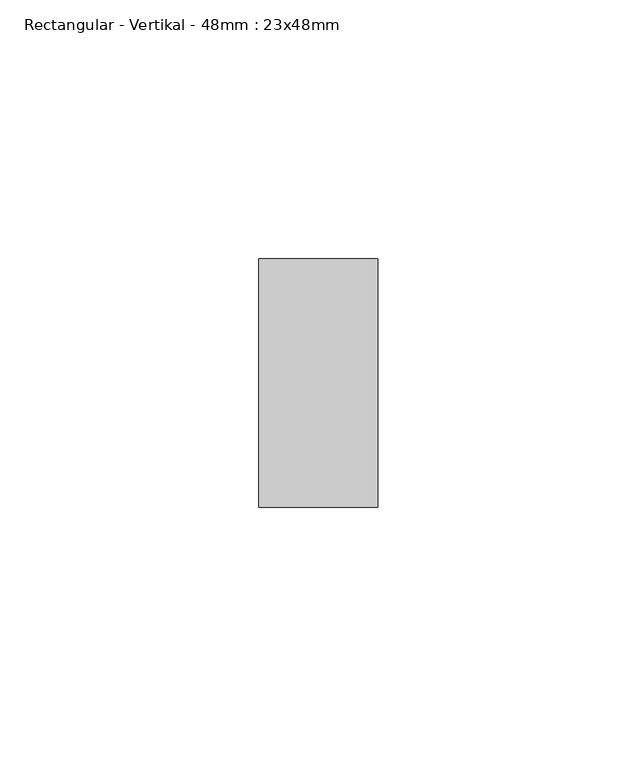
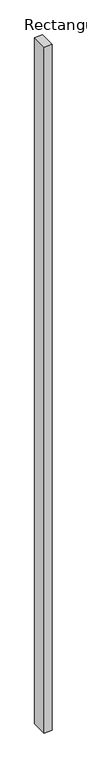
"""IFC4 building model written with IfcOpenShell, lengths in millimetres: proxy geometry, Rectangular - Vertikal - 48mm : 23x48mm."""

from ifc_helpers import new_model, si_unit, frame, origin, place, context, project, spatial, polyline, outline, extrude, source, transform, mapped, element, save


def rectangular_vertikal_48mm_23x48mm_f219b789(model_context):
    return source(origin(), model_context, "Body", "SweptSolid", [
        extrude(outline(polyline([(0.0, 20.0), (23.0, 20.0), (23.0, -28.0), (0.0, -28.0), (0.0, 20.0)])), frame((0.0, 0.0, -1050.0025175), z_axis=(0.0, 0.0, 1.0), x_axis=(1.0, 0.0, 0.0)), (0.0, 0.0, 1.0), 2100.0),
    ])


if __name__ == "__main__":
    model = new_model("IFC4")
    model_context = context("Model", 3, world=origin())
    ifc_project = project(units=[si_unit("LENGTHUNIT", "METRE", prefix="MILLI")], contexts=[model_context])
    site = spatial("IfcSite", under=ifc_project)
    building = spatial("IfcBuilding", under=site)
    placement = place(None, origin())
    rectangular_vertikal_48mm_23x48mm_shape = rectangular_vertikal_48mm_23x48mm_f219b789(model_context)
    element("IfcBuildingElementProxy", 1, Name="Rectangular - Vertikal - 48mm : 23x48mm", ObjectType="Rectangular - Vertikal - 48mm : 23x48mm", at=placement, inside=building, context=model_context, shape_type="MappedRepresentation", body=[
        mapped(rectangular_vertikal_48mm_23x48mm_shape, transform((0.0, 0.0, 0.0), x_axis=(1.0, 0.0, 0.0), y_axis=(0.0, 1.0, 0.0), z_axis=(0.0, 0.0, 1.0))),
    ])
    save(model, "model.ifc")
